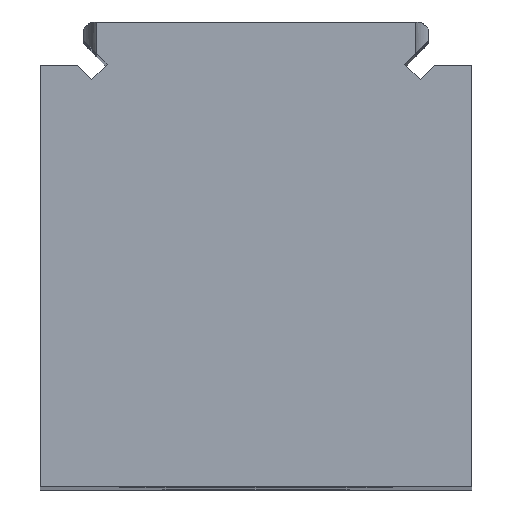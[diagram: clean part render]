
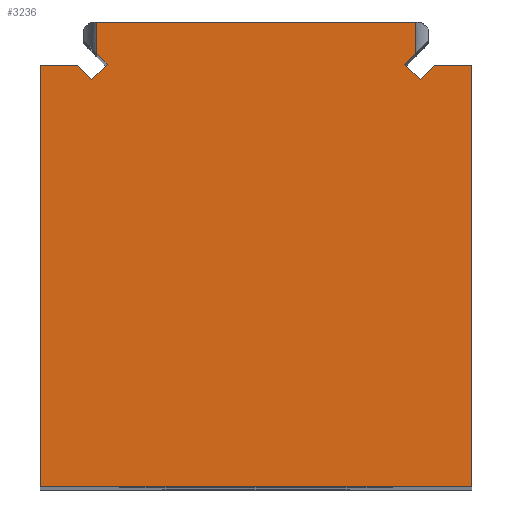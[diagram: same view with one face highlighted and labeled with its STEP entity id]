
A CAD part, top view. The second image highlights one B-rep face of the part: STEP entity #3236.
In plain terms, the highlighted planar face has unit normal (0, 0, 1).
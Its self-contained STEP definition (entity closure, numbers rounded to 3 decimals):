
#46=DIRECTION('',(-0.707,-0.707,0.));
#47=VECTOR('',#46,1.4);
#48=CARTESIAN_POINT('',(17.394,13.15,62.5));
#49=LINE('',#48,#47);
#50=DIRECTION('',(0.,1.,0.));
#51=VECTOR('',#50,29.3);
#52=CARTESIAN_POINT('',(20.,-16.15,62.5));
#53=LINE('',#52,#51);
#54=DIRECTION('',(1.,0.,0.));
#55=VECTOR('',#54,30.);
#56=CARTESIAN_POINT('',(-10.,-16.15,62.5));
#57=LINE('',#56,#55);
#58=DIRECTION('',(0.,-1.,0.));
#59=VECTOR('',#58,29.3);
#60=CARTESIAN_POINT('',(-10.,13.15,62.5));
#61=LINE('',#60,#59);
#62=DIRECTION('',(0.707,-0.707,0.));
#63=VECTOR('',#62,1.4);
#64=CARTESIAN_POINT('',(-7.394,13.15,62.5));
#65=LINE('',#64,#63);
#66=DIRECTION('',(0.707,0.707,0.));
#67=VECTOR('',#66,1.504);
#68=CARTESIAN_POINT('',(-6.404,12.16,62.5));
#69=LINE('',#68,#67);
#70=DIRECTION('',(0.,1.,0.));
#71=VECTOR('',#70,2.166);
#72=CARTESIAN_POINT('',(-6.1,13.984,62.5));
#73=LINE('',#72,#71);
#74=DIRECTION('',(-1.,0.,0.));
#75=VECTOR('',#74,22.2);
#76=CARTESIAN_POINT('',(16.1,16.15,62.5));
#77=LINE('',#76,#75);
#78=DIRECTION('',(0.,-1.,0.));
#79=VECTOR('',#78,2.166);
#80=CARTESIAN_POINT('',(16.1,16.15,62.5));
#81=LINE('',#80,#79);
#82=DIRECTION('',(-0.707,0.707,0.));
#83=VECTOR('',#82,1.504);
#84=CARTESIAN_POINT('',(16.404,12.16,62.5));
#85=LINE('',#84,#83);
#94=DIRECTION('',(-1.,0.,0.));
#95=VECTOR('',#94,2.606);
#96=CARTESIAN_POINT('',(20.,13.15,62.5));
#97=LINE('',#96,#95);
#138=DIRECTION('',(-1.,0.,0.));
#139=VECTOR('',#138,2.606);
#140=CARTESIAN_POINT('',(-7.394,13.15,62.5));
#141=LINE('',#140,#139);
#150=DIRECTION('',(0.707,-0.707,0.));
#151=VECTOR('',#150,1.074);
#152=CARTESIAN_POINT('',(-6.1,13.984,62.5));
#153=LINE('',#152,#151);
#1070=DIRECTION('',(0.707,0.707,0.));
#1071=VECTOR('',#1070,1.074);
#1072=CARTESIAN_POINT('',(15.34,13.224,62.5));
#1073=LINE('',#1072,#1071);
#1079=CARTESIAN_POINT('',(16.1,13.984,62.5));
#1504=CARTESIAN_POINT('',(-6.1,13.984,62.5));
#2451=CARTESIAN_POINT('',(20.,-16.15,62.5));
#2453=VERTEX_POINT('',#2451);
#2455=CARTESIAN_POINT('',(-10.,13.15,62.5));
#2457=VERTEX_POINT('',#2455);
#2459=CARTESIAN_POINT('',(20.,13.15,62.5));
#2461=VERTEX_POINT('',#2459);
#2562=VERTEX_POINT('',#1504);
#2663=VERTEX_POINT('',#1079);
#2668=CARTESIAN_POINT('',(-10.,-16.15,62.5));
#2669=VERTEX_POINT('',#2668);
#2676=CARTESIAN_POINT('',(-7.394,13.15,62.5));
#2677=CARTESIAN_POINT('',(-6.404,12.16,62.5));
#2678=VERTEX_POINT('',#2676);
#2679=VERTEX_POINT('',#2677);
#2680=CARTESIAN_POINT('',(-5.34,13.224,62.5));
#2681=VERTEX_POINT('',#2680);
#2682=CARTESIAN_POINT('',(16.404,12.16,62.5));
#2684=VERTEX_POINT('',#2682);
#2686=CARTESIAN_POINT('',(15.34,13.224,62.5));
#2688=VERTEX_POINT('',#2686);
#2692=CARTESIAN_POINT('',(17.394,13.15,62.5));
#2693=VERTEX_POINT('',#2692);
#3130=CARTESIAN_POINT('',(16.1,16.15,62.5));
#3131=CARTESIAN_POINT('',(-6.1,16.15,62.5));
#3132=VERTEX_POINT('',#3130);
#3133=VERTEX_POINT('',#3131);
#3203=CARTESIAN_POINT('',(0.,0.,62.5));
#3204=DIRECTION('',(0.,0.,1.));
#3205=DIRECTION('',(1.,0.,0.));
#3206=AXIS2_PLACEMENT_3D('',#3203,#3204,#3205);
#3207=PLANE('',#3206);
#3208=ORIENTED_EDGE('',*,*,#3184,.F.);
#3210=ORIENTED_EDGE('',*,*,#3209,.F.);
#3212=ORIENTED_EDGE('',*,*,#3211,.F.);
#3214=ORIENTED_EDGE('',*,*,#3213,.F.);
#3216=ORIENTED_EDGE('',*,*,#3215,.F.);
#3218=ORIENTED_EDGE('',*,*,#3217,.F.);
#3220=ORIENTED_EDGE('',*,*,#3219,.T.);
#3222=ORIENTED_EDGE('',*,*,#3221,.T.);
#3224=ORIENTED_EDGE('',*,*,#3223,.F.);
#3226=ORIENTED_EDGE('',*,*,#3225,.T.);
#3228=ORIENTED_EDGE('',*,*,#3227,.F.);
#3230=ORIENTED_EDGE('',*,*,#3229,.T.);
#3232=ORIENTED_EDGE('',*,*,#3231,.F.);
#3233=ORIENTED_EDGE('',*,*,#3195,.F.);
#3234=EDGE_LOOP('',(#3208,#3210,#3212,#3214,#3216,#3218,#3220,#3222,#3224,#3226,
#3228,#3230,#3232,#3233));
#3235=FACE_OUTER_BOUND('',#3234,.F.);
#3236=ADVANCED_FACE('',(#3235),#3207,.T.);
#3184=EDGE_CURVE('',#2693,#2684,#49,.T.);
#3195=EDGE_CURVE('',#2684,#2688,#85,.T.);
#3209=EDGE_CURVE('',#2461,#2693,#97,.T.);
#3211=EDGE_CURVE('',#2453,#2461,#53,.T.);
#3213=EDGE_CURVE('',#2669,#2453,#57,.T.);
#3215=EDGE_CURVE('',#2457,#2669,#61,.T.);
#3217=EDGE_CURVE('',#2678,#2457,#141,.T.);
#3219=EDGE_CURVE('',#2678,#2679,#65,.T.);
#3221=EDGE_CURVE('',#2679,#2681,#69,.T.);
#3223=EDGE_CURVE('',#2562,#2681,#153,.T.);
#3225=EDGE_CURVE('',#2562,#3133,#73,.T.);
#3227=EDGE_CURVE('',#3132,#3133,#77,.T.);
#3229=EDGE_CURVE('',#3132,#2663,#81,.T.);
#3231=EDGE_CURVE('',#2688,#2663,#1073,.T.);
